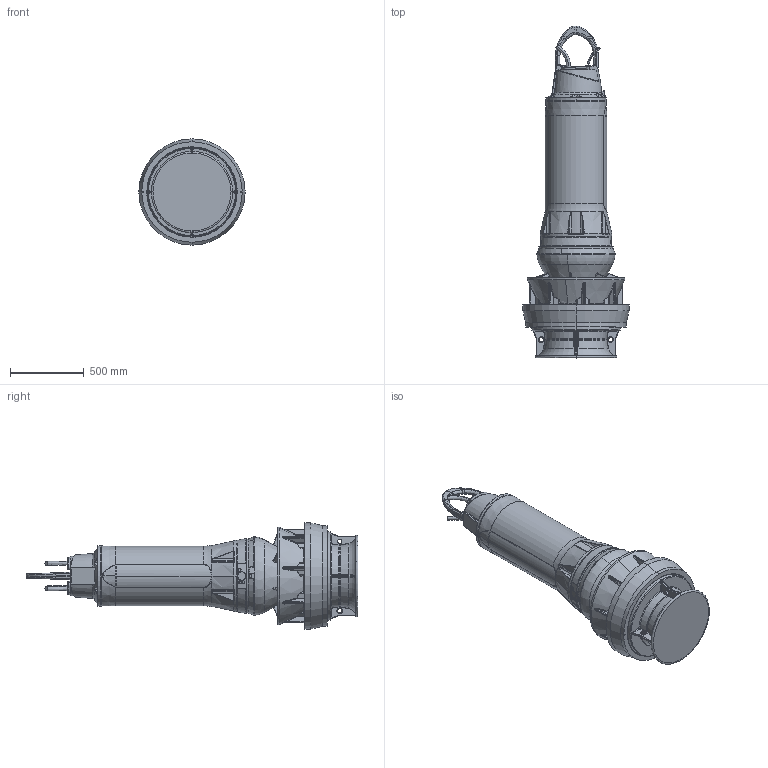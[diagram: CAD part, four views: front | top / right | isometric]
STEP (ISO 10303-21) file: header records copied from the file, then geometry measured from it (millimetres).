
FILE_DESCRIPTION (( 'STEP AP214' ), '1' );
FILE_NAME ('PE5_VUPX0501-2_STD_B_NG2.STEP', '2017-04-07T09:49:43', ( '' ), ( '' ), 'SwSTEP 2.0', 'SolidWorks 2017', '' );
FILE_SCHEMA (( 'AUTOMOTIVE_DESIGN' ));
Length unit declared in the file: millimetre
Products named in the file (1): PE5_VUPX0501-2_STD_B_NG2
Bounding box: 719 x 2246.96 x 719 mm (x, y, z)
Volume: 323742365.4 mm3; surface area: 4910199.3 mm2
Topology: 3 solids, 7 shells, 1698 faces, 4076 edges, 2388 vertices
Faces by surface type: bspline 641, cylinder 397, plane 278, torus 208, cone 134, sphere 40
Entity records: 472152 total; most frequent: CARTESIAN_POINT 419056, ORIENTED_EDGE 8060, DIRECTION 6125, EDGE_CURVE 4030, AXIS2_PLACEMENT_3D 2617, VERTEX_POINT 2388, EDGE_LOOP 1756, UNCERTAINTY_MEASURE_WITH_UNIT 1703
